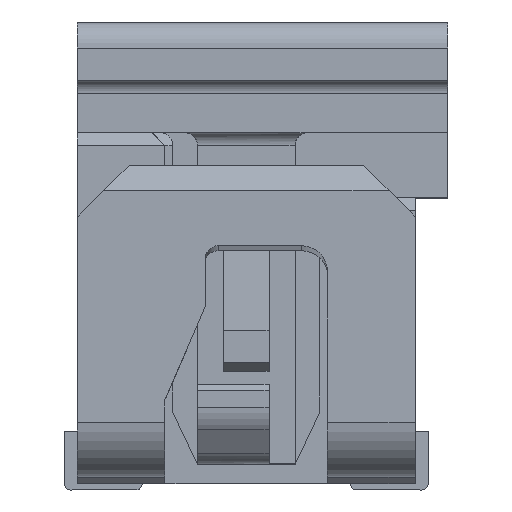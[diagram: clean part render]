
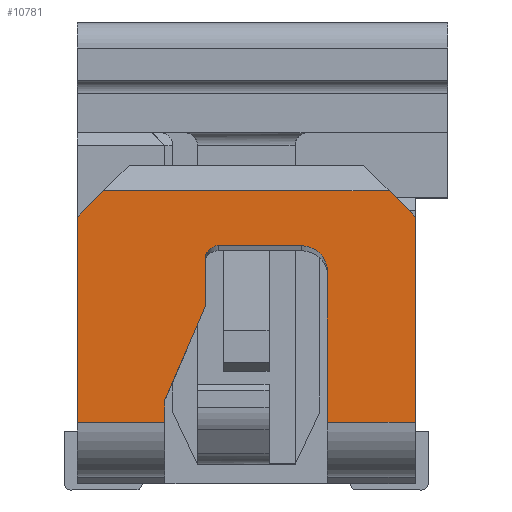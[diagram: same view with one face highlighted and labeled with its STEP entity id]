
A CAD part, left-side view. The second image highlights one B-rep face of the part: STEP entity #10781.
In plain terms, the highlighted planar face has unit normal (-1, 0, 0).
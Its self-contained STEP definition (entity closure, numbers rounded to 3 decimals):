
#32 = CARTESIAN_POINT ( 'NONE',  ( -3.1, -1.925, 1.628 ) ) ;
#55 = EDGE_CURVE ( 'NONE', #12746, #18586, #10764, .T. ) ;
#145 = ORIENTED_EDGE ( 'NONE', *, *, #14755, .F. ) ;
#359 = VECTOR ( 'NONE', #13914, 1000. ) ;
#515 = DIRECTION ( 'NONE',  ( 0., -0.707, -0.707 ) ) ;
#646 = DIRECTION ( 'NONE',  ( 1., 0., 0. ) ) ;
#880 = VERTEX_POINT ( 'NONE', #5450 ) ;
#1325 = CARTESIAN_POINT ( 'NONE',  ( -3.1, -1.887, 1.748 ) ) ;
#1510 = CARTESIAN_POINT ( 'NONE',  ( -3.1, -1.726, 1.829 ) ) ;
#1578 = DIRECTION ( 'NONE',  ( 0., 0., 1. ) ) ;
#1759 = VERTEX_POINT ( 'NONE', #10496 ) ;
#2040 = CARTESIAN_POINT ( 'NONE',  ( -3.1, 0., 0.47 ) ) ;
#2073 = VECTOR ( 'NONE', #8907, 1000. ) ;
#2184 = CARTESIAN_POINT ( 'NONE',  ( -3.1, -2.399, 2.251 ) ) ;
#2185 = ORIENTED_EDGE ( 'NONE', *, *, #7829, .T. ) ;
#2192 = CARTESIAN_POINT ( 'NONE',  ( -3.1, 0., 0.47 ) ) ;
#2549 = ORIENTED_EDGE ( 'NONE', *, *, #10319, .F. ) ;
#2710 = LINE ( 'NONE', #15087, #18489 ) ;
#2771 = CARTESIAN_POINT ( 'NONE',  ( -3.1, -1.026, 1.829 ) ) ;
#2854 = VERTEX_POINT ( 'NONE', #6090 ) ;
#2873 = CARTESIAN_POINT ( 'NONE',  ( -3.1, 0., 1.26 ) ) ;
#2901 = CARTESIAN_POINT ( 'NONE',  ( -3.1, -1.906, 1.714 ) ) ;
#2911 = B_SPLINE_CURVE_WITH_KNOTS ( 'NONE', 5,
 ( #15080, #18268, #10716, #1510, #4311, #10515, #19735, #10615, #16763, #15268, #10804, #7826, #3002, #1325, #3088, #2901, #17974, #14980, #13786, #12289, #6321 ),
 .UNSPECIFIED., .F., .F.,
 ( 6, 3, 3, 3, 3, 3, 6 ),
 ( -0.444, -0.442, -0.357, -0.268, -0.179, -0.089, 0. ),
 .UNSPECIFIED. ) ;
#3002 = CARTESIAN_POINT ( 'NONE',  ( -3.1, -1.871, 1.767 ) ) ;
#3088 = CARTESIAN_POINT ( 'NONE',  ( -3.1, -1.901, 1.726 ) ) ;
#3418 = LINE ( 'NONE', #7754, #11716 ) ;
#3889 = VECTOR ( 'NONE', #12375, 1000. ) ;
#4031 = ORIENTED_EDGE ( 'NONE', *, *, #6126, .F. ) ;
#4083 = CARTESIAN_POINT ( 'NONE',  ( -3.1, -2.6, 2.251 ) ) ;
#4180 = CARTESIAN_POINT ( 'NONE',  ( -3.1, -0.985, 1.788 ) ) ;
#4293 = ORIENTED_EDGE ( 'NONE', *, *, #17002, .T. ) ;
#4311 = CARTESIAN_POINT ( 'NONE',  ( -3.1, -1.738, 1.829 ) ) ;
#4823 = LINE ( 'NONE', #2192, #12540 ) ;
#4873 = VECTOR ( 'NONE', #5290, 1000. ) ;
#5256 = FACE_OUTER_BOUND ( 'NONE', #12682, .T. ) ;
#5290 = DIRECTION ( 'NONE',  ( 0., 0.397, -0.918 ) ) ;
#5325 = VECTOR ( 'NONE', #7209, 1000. ) ;
#5450 = CARTESIAN_POINT ( 'NONE',  ( -3.1, -0.985, 1.729 ) ) ;
#5499 = VERTEX_POINT ( 'NONE', #2040 ) ;
#5732 = DIRECTION ( 'NONE',  ( 0., -0.707, 0.707 ) ) ;
#5929 = EDGE_CURVE ( 'NONE', #2854, #6141, #8012, .T. ) ;
#5942 = EDGE_CURVE ( 'NONE', #880, #10009, #16212, .T. ) ;
#6087 = LINE ( 'NONE', #12169, #7118 ) ;
#6090 = CARTESIAN_POINT ( 'NONE',  ( -3.1, -0.985, 1.36 ) ) ;
#6126 = EDGE_CURVE ( 'NONE', #12746, #11075, #6087, .T. ) ;
#6141 = VERTEX_POINT ( 'NONE', #13554 ) ;
#6186 = VECTOR ( 'NONE', #6473, 1000. ) ;
#6321 = CARTESIAN_POINT ( 'NONE',  ( -3.1, -1.925, 1.628 ) ) ;
#6473 = DIRECTION ( 'NONE',  ( 0., -1., 0. ) ) ;
#6606 = ORIENTED_EDGE ( 'NONE', *, *, #17903, .T. ) ;
#6807 = CARTESIAN_POINT ( 'NONE',  ( -3.1, -0.83, 1.002 ) ) ;
#6832 = DIRECTION ( 'NONE',  ( 0., 0., 1. ) ) ;
#6893 = EDGE_CURVE ( 'NONE', #5499, #11273, #4823, .T. ) ;
#6907 = LINE ( 'NONE', #4083, #5325 ) ;
#7106 = CARTESIAN_POINT ( 'NONE',  ( -3.1, -0.985, 1.729 ) ) ;
#7118 = VECTOR ( 'NONE', #1578, 1000. ) ;
#7209 = DIRECTION ( 'NONE',  ( 0., 1., 0. ) ) ;
#7754 = CARTESIAN_POINT ( 'NONE',  ( -3.1, -2.499, 2.151 ) ) ;
#7826 = CARTESIAN_POINT ( 'NONE',  ( -3.1, -1.862, 1.776 ) ) ;
#7829 = EDGE_CURVE ( 'NONE', #17081, #11075, #2911, .T. ) ;
#8012 = LINE ( 'NONE', #6807, #4873 ) ;
#8050 = LINE ( 'NONE', #17003, #359 ) ;
#8260 = EDGE_CURVE ( 'NONE', #6141, #11273, #11884, .T. ) ;
#8901 = CARTESIAN_POINT ( 'NONE',  ( -3.1, -1.085, 1.829 ) ) ;
#8907 = DIRECTION ( 'NONE',  ( 0., 0., -1. ) ) ;
#9746 = ORIENTED_EDGE ( 'NONE', *, *, #16109, .F. ) ;
#10009 = VERTEX_POINT ( 'NONE', #12736 ) ;
#10281 = ORIENTED_EDGE ( 'NONE', *, *, #10610, .T. ) ;
#10319 = EDGE_CURVE ( 'NONE', #14403, #19092, #3418, .T. ) ;
#10401 = CARTESIAN_POINT ( 'NONE',  ( -3.1, -0.675, 0.557 ) ) ;
#10496 = CARTESIAN_POINT ( 'NONE',  ( -3.1, 0., 2.05 ) ) ;
#10508 = ORIENTED_EDGE ( 'NONE', *, *, #55, .T. ) ;
#10515 = CARTESIAN_POINT ( 'NONE',  ( -3.1, -1.751, 1.828 ) ) ;
#10610 = EDGE_CURVE ( 'NONE', #14403, #13867, #6907, .T. ) ;
#10615 = CARTESIAN_POINT ( 'NONE',  ( -3.1, -1.787, 1.82 ) ) ;
#10716 = CARTESIAN_POINT ( 'NONE',  ( -3.1, -1.726, 1.829 ) ) ;
#10764 = LINE ( 'NONE', #14029, #6186 ) ;
#10781 = ADVANCED_FACE ( 'NONE', ( #5256 ), #17710, .F. ) ;
#10804 = CARTESIAN_POINT ( 'NONE',  ( -3.1, -1.842, 1.792 ) ) ;
#10896 = CARTESIAN_POINT ( 'NONE',  ( -3.1, -2.6, 1.26 ) ) ;
#11075 = VERTEX_POINT ( 'NONE', #32 ) ;
#11108 = CARTESIAN_POINT ( 'NONE',  ( -3.1, -0.201, 2.251 ) ) ;
#11125 = CARTESIAN_POINT ( 'NONE',  ( -3.1, -1.725, 1.829 ) ) ;
#11273 = VERTEX_POINT ( 'NONE', #16664 ) ;
#11312 = LINE ( 'NONE', #2873, #11910 ) ;
#11716 = VECTOR ( 'NONE', #515, 1000. ) ;
#11884 = LINE ( 'NONE', #10401, #2073 ) ;
#11910 = VECTOR ( 'NONE', #6832, 1000. ) ;
#11955 = ORIENTED_EDGE ( 'NONE', *, *, #5942, .T. ) ;
#12169 = CARTESIAN_POINT ( 'NONE',  ( -3.1, -1.925, 1.049 ) ) ;
#12289 = CARTESIAN_POINT ( 'NONE',  ( -3.1, -1.925, 1.641 ) ) ;
#12375 = DIRECTION ( 'NONE',  ( 0., 0., 1. ) ) ;
#12405 = ORIENTED_EDGE ( 'NONE', *, *, #8260, .F. ) ;
#12540 = VECTOR ( 'NONE', #14271, 1000. ) ;
#12682 = EDGE_LOOP ( 'NONE', ( #4293, #2185, #4031, #10508, #6606, #2549, #10281, #9746, #17448, #19326, #12405, #18160, #145, #11955 ) ) ;
#12736 = CARTESIAN_POINT ( 'NONE',  ( -3.1, -1.085, 1.829 ) ) ;
#12746 = VERTEX_POINT ( 'NONE', #18954 ) ;
#13107 = LINE ( 'NONE', #19158, #16544 ) ;
#13554 = CARTESIAN_POINT ( 'NONE',  ( -3.1, -0.675, 0.644 ) ) ;
#13786 = CARTESIAN_POINT ( 'NONE',  ( -3.1, -1.924, 1.654 ) ) ;
#13867 = VERTEX_POINT ( 'NONE', #11108 ) ;
#13914 = DIRECTION ( 'NONE',  ( 0., -1., 0. ) ) ;
#14029 = CARTESIAN_POINT ( 'NONE',  ( -3.1, -1.925, 0.47 ) ) ;
#14235 = CARTESIAN_POINT ( 'NONE',  ( -3.1, -2.6, 2.05 ) ) ;
#14271 = DIRECTION ( 'NONE',  ( 0., -1., 0. ) ) ;
#14403 = VERTEX_POINT ( 'NONE', #2184 ) ;
#14755 = EDGE_CURVE ( 'NONE', #880, #2854, #13107, .T. ) ;
#14980 = CARTESIAN_POINT ( 'NONE',  ( -3.1, -1.922, 1.666 ) ) ;
#15080 = CARTESIAN_POINT ( 'NONE',  ( -3.1, -1.725, 1.829 ) ) ;
#15087 = CARTESIAN_POINT ( 'NONE',  ( -3.1, -0.101, 2.151 ) ) ;
#15268 = CARTESIAN_POINT ( 'NONE',  ( -3.1, -1.821, 1.805 ) ) ;
#15366 = LINE ( 'NONE', #10896, #3889 ) ;
#16109 = EDGE_CURVE ( 'NONE', #1759, #13867, #2710, .T. ) ;
#16183 = DIRECTION ( 'NONE',  ( 0., 0., -1. ) ) ;
#16212 =( BOUNDED_CURVE ( )  B_SPLINE_CURVE ( 3, ( #7106, #4180, #2771, #8901 ),
 .UNSPECIFIED., .F., .T. ) 
 B_SPLINE_CURVE_WITH_KNOTS ( ( 4, 4 ),
 ( 4.712, 6.283 ),
 .UNSPECIFIED. ) 
 CURVE ( )  GEOMETRIC_REPRESENTATION_ITEM ( )  RATIONAL_B_SPLINE_CURVE ( ( 1., 0.805, 0.805, 1. ) ) 
 REPRESENTATION_ITEM ( '' )  );
#16480 = AXIS2_PLACEMENT_3D ( 'NONE', #17606, #646, #18795 ) ;
#16544 = VECTOR ( 'NONE', #16183, 1000. ) ;
#16664 = CARTESIAN_POINT ( 'NONE',  ( -3.1, -0.675, 0.47 ) ) ;
#16763 = CARTESIAN_POINT ( 'NONE',  ( -3.1, -1.809, 1.811 ) ) ;
#17002 = EDGE_CURVE ( 'NONE', #10009, #17081, #8050, .T. ) ;
#17003 = CARTESIAN_POINT ( 'NONE',  ( -3.1, -1.405, 1.829 ) ) ;
#17081 = VERTEX_POINT ( 'NONE', #11125 ) ;
#17448 = ORIENTED_EDGE ( 'NONE', *, *, #18831, .F. ) ;
#17606 = CARTESIAN_POINT ( 'NONE',  ( -3.1, -2.6, 0. ) ) ;
#17710 = PLANE ( 'NONE',  #16480 ) ;
#17903 = EDGE_CURVE ( 'NONE', #18586, #19092, #15366, .T. ) ;
#17974 = CARTESIAN_POINT ( 'NONE',  ( -3.1, -1.916, 1.691 ) ) ;
#17995 = CARTESIAN_POINT ( 'NONE',  ( -3.1, -2.6, 0.47 ) ) ;
#18160 = ORIENTED_EDGE ( 'NONE', *, *, #5929, .F. ) ;
#18268 = CARTESIAN_POINT ( 'NONE',  ( -3.1, -1.725, 1.829 ) ) ;
#18489 = VECTOR ( 'NONE', #5732, 1000. ) ;
#18586 = VERTEX_POINT ( 'NONE', #17995 ) ;
#18795 = DIRECTION ( 'NONE',  ( 0., 1., 0. ) ) ;
#18831 = EDGE_CURVE ( 'NONE', #5499, #1759, #11312, .T. ) ;
#18954 = CARTESIAN_POINT ( 'NONE',  ( -3.1, -1.925, 0.47 ) ) ;
#19092 = VERTEX_POINT ( 'NONE', #14235 ) ;
#19158 = CARTESIAN_POINT ( 'NONE',  ( -3.1, -0.985, 1.544 ) ) ;
#19326 = ORIENTED_EDGE ( 'NONE', *, *, #6893, .T. ) ;
#19735 = CARTESIAN_POINT ( 'NONE',  ( -3.1, -1.763, 1.826 ) ) ;
